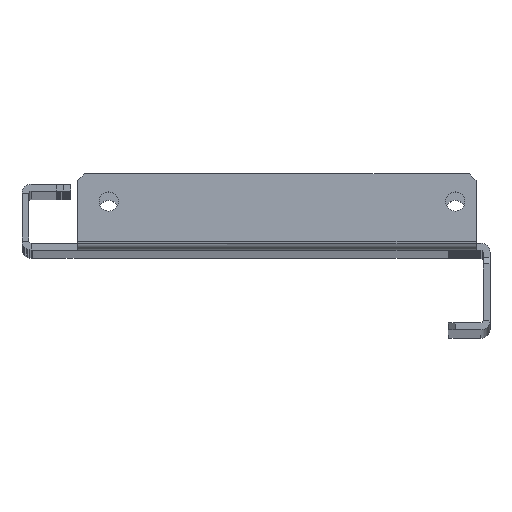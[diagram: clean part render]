
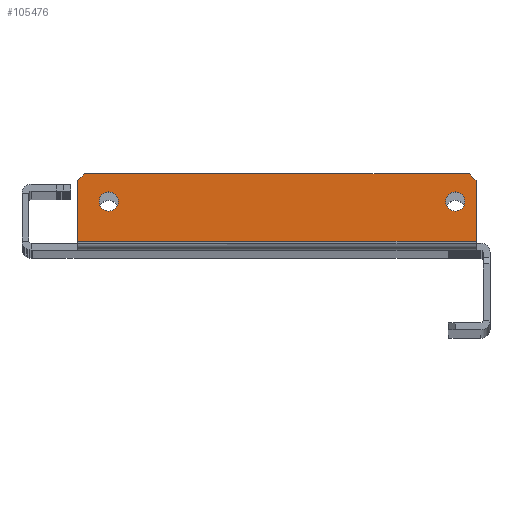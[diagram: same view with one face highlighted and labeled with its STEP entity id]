
A CAD part, top view. The second image highlights one B-rep face of the part: STEP entity #105476.
In plain terms, the highlighted planar face has unit normal (0, 0, 1).
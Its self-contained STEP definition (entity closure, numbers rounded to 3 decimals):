
#78291=CARTESIAN_POINT(' ',(131.,1.,1390.));
#78292=VERTEX_POINT(' ',#78291);
#78306=CARTESIAN_POINT(' ',(131.,1.,1390.));
#78311=DIRECTION(' ',(0.,-1.,0.));
#78316=VECTOR(' ',#78311,1.);
#78321=LINE('',#78306,#78316);
#78326=CARTESIAN_POINT(' ',(131.,-16.4,1390.));
#78327=VERTEX_POINT(' ',#78326);
#78331=EDGE_CURVE(' ',#78292,#78327,#78321,.T.);
#82921=CARTESIAN_POINT(' ',(16.,-16.4,1390.));
#82926=DIRECTION(' ',(1.,0.,0.));
#82931=VECTOR(' ',#82926,1.);
#82936=LINE('',#82921,#82931);
#82941=CARTESIAN_POINT(' ',(16.,-16.4,1390.));
#82942=VERTEX_POINT(' ',#82941);
#82946=EDGE_CURVE(' ',#82942,#78327,#82936,.T.);
#83046=CARTESIAN_POINT(' ',(16.,1.,1390.));
#83051=DIRECTION(' ',(0.,-1.,0.));
#83056=VECTOR(' ',#83051,1.);
#83061=LINE('',#83046,#83056);
#83066=CARTESIAN_POINT(' ',(16.,1.,1390.));
#83067=VERTEX_POINT(' ',#83066);
#83071=EDGE_CURVE(' ',#83067,#82942,#83061,.T.);
#105086=CARTESIAN_POINT(' ',(131.,1.,1390.));
#105091=DIRECTION(' ',(-0.707,0.707,0.));
#105096=VECTOR(' ',#105091,1.);
#105101=LINE('',#105086,#105096);
#105106=CARTESIAN_POINT(' ',(129.,3.,1390.));
#105107=VERTEX_POINT(' ',#105106);
#105111=EDGE_CURVE(' ',#78292,#105107,#105101,.T.);
#105176=DIRECTION(' ',(0.,0.,1.));
#105181=CARTESIAN_POINT(' ',(16.,-16.4,1390.));
#105186=DIRECTION(' ',(1.,0.,-0.));
#105191=AXIS2_PLACEMENT_3D(' ',#105181,#105176,#105186);
#105196=PLANE('NONE',#105191);
#105201=CARTESIAN_POINT(' ',(129.,3.,1390.));
#105206=DIRECTION(' ',(-1.,0.,0.));
#105211=VECTOR(' ',#105206,1.);
#105216=LINE('',#105201,#105211);
#105221=CARTESIAN_POINT(' ',(18.,3.,1390.));
#105222=VERTEX_POINT(' ',#105221);
#105226=EDGE_CURVE(' ',#105107,#105222,#105216,.T.);
#105231=ORIENTED_EDGE(' ',*,*,#105226,.T.);
#105236=CARTESIAN_POINT(' ',(18.,3.,1390.));
#105241=DIRECTION(' ',(-0.707,-0.707,0.));
#105246=VECTOR(' ',#105241,1.);
#105251=LINE('',#105236,#105246);
#105256=EDGE_CURVE(' ',#105222,#83067,#105251,.T.);
#105261=ORIENTED_EDGE(' ',*,*,#105256,.T.);
#105266=ORIENTED_EDGE(' ',*,*,#83071,.T.);
#105271=ORIENTED_EDGE(' ',*,*,#82946,.T.);
#105276=ORIENTED_EDGE(' ',*,*,#78331,.F.);
#105281=ORIENTED_EDGE(' ',*,*,#105111,.T.);
#105286=EDGE_LOOP(' ',(#105231,#105261,#105266,#105271,#105276,#105281));
#105291=FACE_OUTER_BOUND(' ',#105286,.T.);
#105296=CARTESIAN_POINT(' ',(25.,-5.,1390.));
#105301=DIRECTION(' ',(-0.,0.,-1.));
#105306=DIRECTION(' ',(0.,1.,0.));
#105311=AXIS2_PLACEMENT_3D(' ',#105296,#105301,#105306);
#105316=CIRCLE('',#105311,2.75);
#105321=CARTESIAN_POINT(' ',(25.,-2.25,1390.));
#105322=VERTEX_POINT(' ',#105321);
#105326=CARTESIAN_POINT(' ',(25.,-7.75,1390.));
#105327=VERTEX_POINT(' ',#105326);
#105331=EDGE_CURVE(' ',#105322,#105327,#105316,.T.);
#105336=ORIENTED_EDGE(' ',*,*,#105331,.T.);
#105341=CARTESIAN_POINT(' ',(25.,-5.,1390.));
#105346=DIRECTION(' ',(0.,0.,-1.));
#105351=DIRECTION(' ',(0.,-1.,0.));
#105356=AXIS2_PLACEMENT_3D(' ',#105341,#105346,#105351);
#105361=CIRCLE('',#105356,2.75);
#105366=EDGE_CURVE(' ',#105327,#105322,#105361,.T.);
#105371=ORIENTED_EDGE(' ',*,*,#105366,.T.);
#105376=EDGE_LOOP(' ',(#105336,#105371));
#105381=FACE_BOUND(' ',#105376,.T.);
#105386=CARTESIAN_POINT(' ',(125.,-5.,1390.));
#105391=DIRECTION(' ',(-0.,0.,-1.));
#105396=DIRECTION(' ',(0.,1.,0.));
#105401=AXIS2_PLACEMENT_3D(' ',#105386,#105391,#105396);
#105406=CIRCLE('',#105401,2.75);
#105411=CARTESIAN_POINT(' ',(125.,-2.25,1390.));
#105412=VERTEX_POINT(' ',#105411);
#105416=CARTESIAN_POINT(' ',(125.,-7.75,1390.));
#105417=VERTEX_POINT(' ',#105416);
#105421=EDGE_CURVE(' ',#105412,#105417,#105406,.T.);
#105426=ORIENTED_EDGE(' ',*,*,#105421,.T.);
#105431=CARTESIAN_POINT(' ',(125.,-5.,1390.));
#105436=DIRECTION(' ',(0.,0.,-1.));
#105441=DIRECTION(' ',(0.,-1.,0.));
#105446=AXIS2_PLACEMENT_3D(' ',#105431,#105436,#105441);
#105451=CIRCLE('',#105446,2.75);
#105456=EDGE_CURVE(' ',#105417,#105412,#105451,.T.);
#105461=ORIENTED_EDGE(' ',*,*,#105456,.T.);
#105466=EDGE_LOOP(' ',(#105426,#105461));
#105471=FACE_BOUND(' ',#105466,.T.);
#105476=ADVANCED_FACE('NONE',(#105291,#105381,#105471),#105196,.T.);
